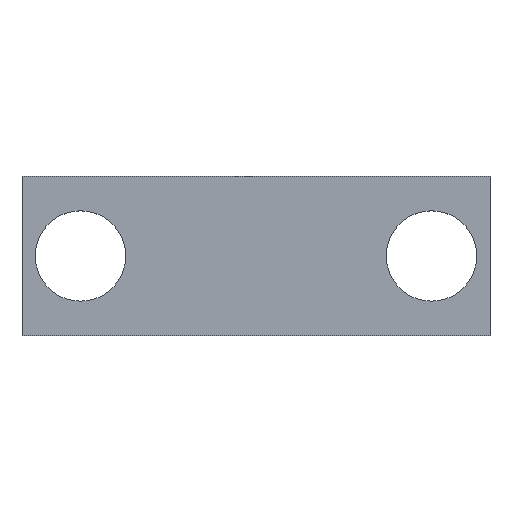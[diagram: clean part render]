
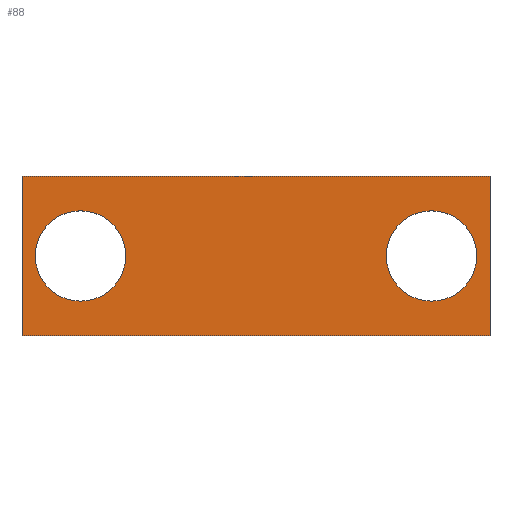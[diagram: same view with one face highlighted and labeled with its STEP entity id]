
A CAD part, top view. The second image highlights one B-rep face of the part: STEP entity #88.
In plain terms, the highlighted planar face has unit normal (0, 0, 1).
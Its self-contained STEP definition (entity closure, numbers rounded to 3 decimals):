
#24 = VERTEX_POINT('',#25);
#25 = CARTESIAN_POINT('',(35.275,-3.,174.675));
#40 = VERTEX_POINT('',#41);
#41 = CARTESIAN_POINT('',(35.275,3.,174.675));
#47 = EDGE_CURVE('',#24,#40,#48,.T.);
#48 = LINE('',#49,#50);
#49 = CARTESIAN_POINT('',(35.275,-3.,174.675));
#50 = VECTOR('',#51,1.);
#51 = DIRECTION('',(0.,1.,0.));
#70 = EDGE_CURVE('',#24,#71,#73,.T.);
#71 = VERTEX_POINT('',#72);
#72 = CARTESIAN_POINT('',(52.875,-3.,174.675));
#73 = LINE('',#74,#75);
#74 = CARTESIAN_POINT('',(35.275,-3.,174.675));
#75 = VECTOR('',#76,1.);
#76 = DIRECTION('',(1.,0.,0.));
#88 = ADVANCED_FACE('',(#89,#107,#118),#129,.T.);
#89 = FACE_BOUND('',#90,.T.);
#90 = EDGE_LOOP('',(#91,#92,#93,#101));
#91 = ORIENTED_EDGE('',*,*,#47,.F.);
#92 = ORIENTED_EDGE('',*,*,#70,.T.);
#93 = ORIENTED_EDGE('',*,*,#94,.T.);
#94 = EDGE_CURVE('',#71,#95,#97,.T.);
#95 = VERTEX_POINT('',#96);
#96 = CARTESIAN_POINT('',(52.875,3.,174.675));
#97 = LINE('',#98,#99);
#98 = CARTESIAN_POINT('',(52.875,-3.,174.675));
#99 = VECTOR('',#100,1.);
#100 = DIRECTION('',(0.,1.,0.));
#101 = ORIENTED_EDGE('',*,*,#102,.F.);
#102 = EDGE_CURVE('',#40,#95,#103,.T.);
#103 = LINE('',#104,#105);
#104 = CARTESIAN_POINT('',(35.275,3.,174.675));
#105 = VECTOR('',#106,1.);
#106 = DIRECTION('',(1.,0.,0.));
#107 = FACE_BOUND('',#108,.T.);
#108 = EDGE_LOOP('',(#109));
#109 = ORIENTED_EDGE('',*,*,#110,.F.);
#110 = EDGE_CURVE('',#111,#111,#113,.T.);
#111 = VERTEX_POINT('',#112);
#112 = CARTESIAN_POINT('',(39.175,0.,174.675));
#113 = CIRCLE('',#114,1.7);
#114 = AXIS2_PLACEMENT_3D('',#115,#116,#117);
#115 = CARTESIAN_POINT('',(37.475,0.,174.675));
#116 = DIRECTION('',(0.,0.,1.));
#117 = DIRECTION('',(1.,0.,0.));
#118 = FACE_BOUND('',#119,.T.);
#119 = EDGE_LOOP('',(#120));
#120 = ORIENTED_EDGE('',*,*,#121,.F.);
#121 = EDGE_CURVE('',#122,#122,#124,.T.);
#122 = VERTEX_POINT('',#123);
#123 = CARTESIAN_POINT('',(52.375,0.,174.675));
#124 = CIRCLE('',#125,1.7);
#125 = AXIS2_PLACEMENT_3D('',#126,#127,#128);
#126 = CARTESIAN_POINT('',(50.675,0.,174.675));
#127 = DIRECTION('',(0.,0.,1.));
#128 = DIRECTION('',(1.,0.,0.));
#129 = PLANE('',#130);
#130 = AXIS2_PLACEMENT_3D('',#131,#132,#133);
#131 = CARTESIAN_POINT('',(35.275,-3.,174.675));
#132 = DIRECTION('',(0.,0.,1.));
#133 = DIRECTION('',(1.,0.,0.));
